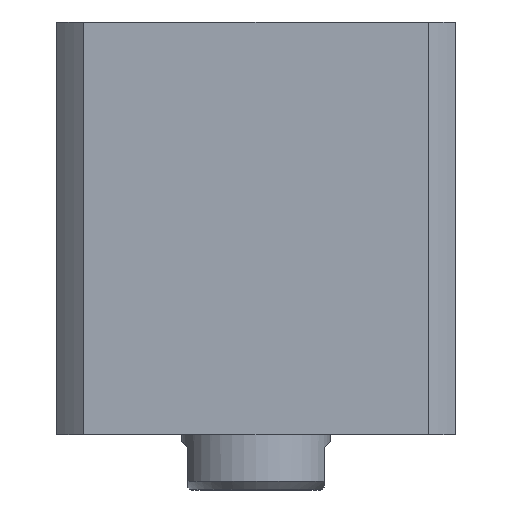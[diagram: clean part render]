
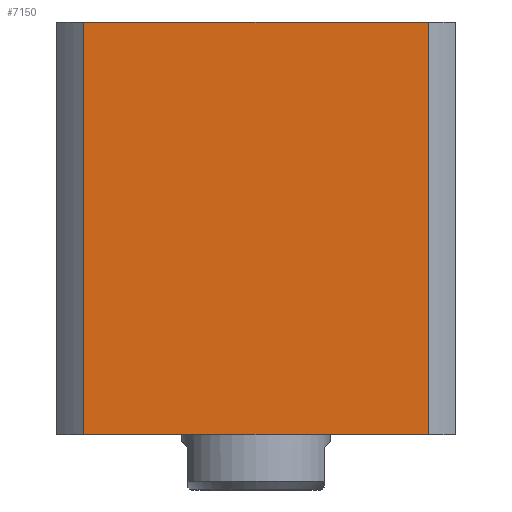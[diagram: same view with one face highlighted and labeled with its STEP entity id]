
A CAD part, front view. The second image highlights one B-rep face of the part: STEP entity #7150.
In plain terms, the highlighted planar face has unit normal (0, -1, 0) as drawn and (0, 1, 0) by its records, which use the part's own axes.
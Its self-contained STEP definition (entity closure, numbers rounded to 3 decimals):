
#218 = LINE ( 'NONE', #3988, #15311 ) ;
#853 = DIRECTION ( 'NONE',  ( 0., 0., -1. ) ) ;
#929 = VECTOR ( 'NONE', #853, 1000. ) ;
#1540 = EDGE_CURVE ( 'NONE', #9171, #10902, #218, .T. ) ;
#1718 = CARTESIAN_POINT ( 'NONE',  ( 40.435, 47., 0. ) ) ;
#1922 = VECTOR ( 'NONE', #3620, 1000. ) ;
#2777 = CARTESIAN_POINT ( 'NONE',  ( -40.435, 47., 97. ) ) ;
#3563 = DIRECTION ( 'NONE',  ( -1., 0., 0. ) ) ;
#3620 = DIRECTION ( 'NONE',  ( 0., 0., 1. ) ) ;
#3921 = DIRECTION ( 'NONE',  ( -1., 0., 0. ) ) ;
#3988 = CARTESIAN_POINT ( 'NONE',  ( -47., 47., 0. ) ) ;
#4645 = LINE ( 'NONE', #9191, #929 ) ;
#4894 = PLANE ( 'NONE',  #6622 ) ;
#6285 = DIRECTION ( 'NONE',  ( 0., 0., -1. ) ) ;
#6351 = CARTESIAN_POINT ( 'NONE',  ( -47., 47., 97. ) ) ;
#6502 = EDGE_CURVE ( 'NONE', #8992, #13596, #16635, .T. ) ;
#6622 = AXIS2_PLACEMENT_3D ( 'NONE', #13077, #14477, #6285 ) ;
#7150 = ADVANCED_FACE ( 'NONE', ( #17668 ), #4894, .F. ) ;
#7730 = EDGE_CURVE ( 'NONE', #13596, #10902, #4645, .T. ) ;
#8992 = VERTEX_POINT ( 'NONE', #12686 ) ;
#9171 = VERTEX_POINT ( 'NONE', #1718 ) ;
#9191 = CARTESIAN_POINT ( 'NONE',  ( -40.435, 47., -203. ) ) ;
#9296 = LINE ( 'NONE', #17260, #1922 ) ;
#10494 = ORIENTED_EDGE ( 'NONE', *, *, #1540, .T. ) ;
#10902 = VERTEX_POINT ( 'NONE', #13552 ) ;
#12643 = ORIENTED_EDGE ( 'NONE', *, *, #17826, .F. ) ;
#12686 = CARTESIAN_POINT ( 'NONE',  ( 40.435, 47., 97. ) ) ;
#13077 = CARTESIAN_POINT ( 'NONE',  ( -47., 47., 97. ) ) ;
#13552 = CARTESIAN_POINT ( 'NONE',  ( -40.435, 47., 0. ) ) ;
#13596 = VERTEX_POINT ( 'NONE', #2777 ) ;
#14477 = DIRECTION ( 'NONE',  ( 0., -1., 0. ) ) ;
#14507 = EDGE_LOOP ( 'NONE', ( #12643, #10494, #17555, #15948 ) ) ;
#15311 = VECTOR ( 'NONE', #3921, 1000. ) ;
#15948 = ORIENTED_EDGE ( 'NONE', *, *, #6502, .F. ) ;
#16210 = VECTOR ( 'NONE', #3563, 1000. ) ;
#16635 = LINE ( 'NONE', #6351, #16210 ) ;
#17260 = CARTESIAN_POINT ( 'NONE',  ( 40.435, 47., -203. ) ) ;
#17555 = ORIENTED_EDGE ( 'NONE', *, *, #7730, .F. ) ;
#17668 = FACE_OUTER_BOUND ( 'NONE', #14507, .T. ) ;
#17826 = EDGE_CURVE ( 'NONE', #9171, #8992, #9296, .T. ) ;
